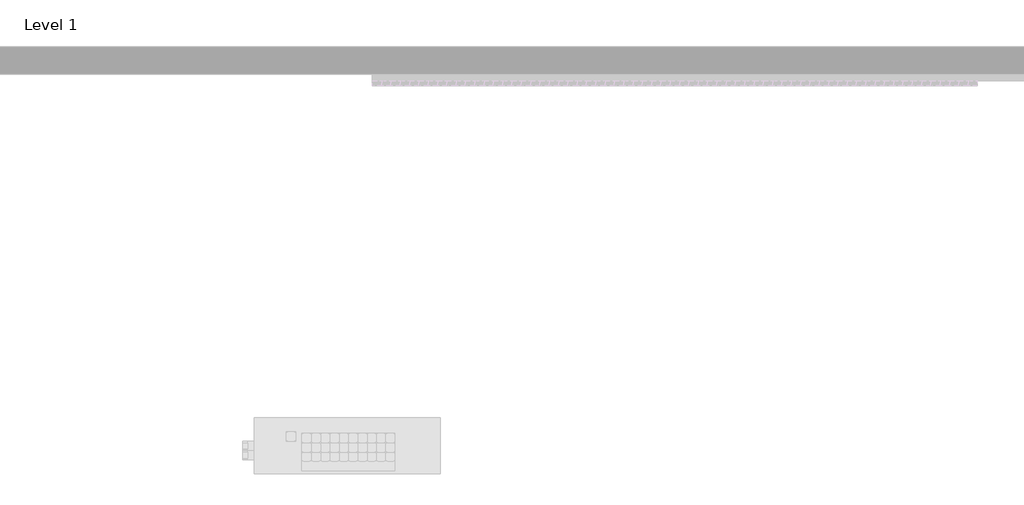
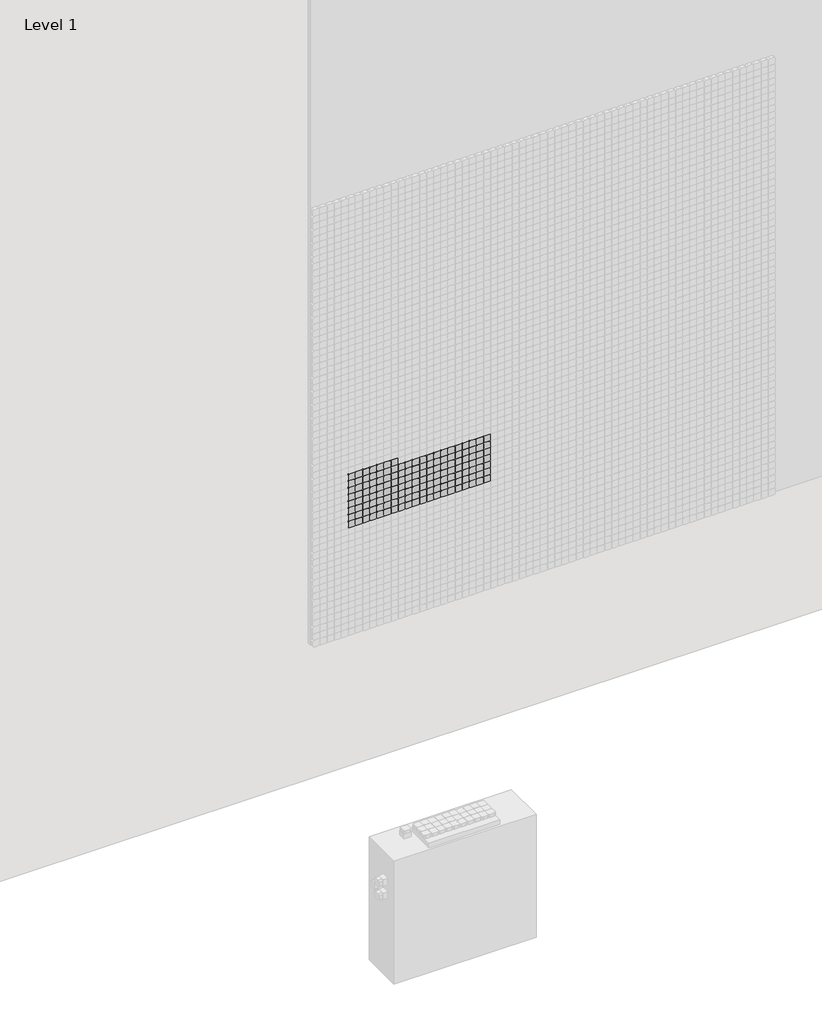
# One storey, part 18 of 71: 147 proxies.
"""IFC4 building model written with IfcOpenShell, lengths in millimetres."""

from ifc_helpers import new_model, si_unit, origin, place, context, project, spatial, transform, mapped, element, save
from components import generic_models_afde289c

model = new_model("IFC4")

# Units and contexts
model_context = context("Model", 3, world=origin())
ifc_project = project(units=[si_unit("LENGTHUNIT", "METRE", prefix="MILLI")], contexts=[model_context])

# Site, building, storey
site = spatial("IfcSite", under=ifc_project)
building = spatial("IfcBuilding", under=site)
storey = spatial("IfcBuildingStorey", under=building, Name="Level 1", Elevation=0.0)

# Proxies
placement = place(None, origin())
generic_models_shape = generic_models_afde289c(model_context)
element("IfcBuildingElementProxy", 1, Name="Pixel_M : Pixel_M", ObjectType="Pixel_M : Pixel_M", at=placement, inside=storey, context=model_context, shape_type="MappedRepresentation", body=[
    mapped(generic_models_shape, transform((5312.4280941, -75.0, 2166.3566215), x_axis=(1.0, 0.0, 0.0), y_axis=(0.0, 0.0, 1.0), z_axis=(0.0, -1.0, 0.0))),
])
element("IfcBuildingElementProxy", 2, Name="Pixel_M : Pixel_M", ObjectType="Pixel_M : Pixel_M", at=placement, inside=storey, context=model_context, shape_type="MappedRepresentation", body=[
    mapped(generic_models_shape, transform((5262.4280941, -75.0, 2166.3566215), x_axis=(1.0, 0.0, 0.0), y_axis=(0.0, 0.0, 1.0), z_axis=(0.0, -1.0, 0.0))),
])
element("IfcBuildingElementProxy", 3, Name="Pixel_M : Pixel_M", ObjectType="Pixel_M : Pixel_M", at=placement, inside=storey, context=model_context, shape_type="MappedRepresentation", body=[
    mapped(generic_models_shape, transform((5212.4280941, -75.0, 2166.3566215), x_axis=(1.0, 0.0, 0.0), y_axis=(0.0, 0.0, 1.0), z_axis=(0.0, -1.0, 0.0))),
])
element("IfcBuildingElementProxy", 4, Name="Pixel_M : Pixel_M", ObjectType="Pixel_M : Pixel_M", at=placement, inside=storey, context=model_context, shape_type="MappedRepresentation", body=[
    mapped(generic_models_shape, transform((5162.4280941, -75.0, 2166.3566215), x_axis=(1.0, 0.0, 0.0), y_axis=(0.0, 0.0, 1.0), z_axis=(0.0, -1.0, 0.0))),
])
element("IfcBuildingElementProxy", 5, Name="Pixel_M : Pixel_M", ObjectType="Pixel_M : Pixel_M", at=placement, inside=storey, context=model_context, shape_type="MappedRepresentation", body=[
    mapped(generic_models_shape, transform((5112.4280941, -75.0, 2166.3566215), x_axis=(1.0, 0.0, 0.0), y_axis=(0.0, 0.0, 1.0), z_axis=(0.0, -1.0, 0.0))),
])
element("IfcBuildingElementProxy", 6, Name="Pixel_M : Pixel_M", ObjectType="Pixel_M : Pixel_M", at=placement, inside=storey, context=model_context, shape_type="MappedRepresentation", body=[
    mapped(generic_models_shape, transform((5062.4280941, -75.0, 2166.3566215), x_axis=(1.0, 0.0, 0.0), y_axis=(0.0, 0.0, 1.0), z_axis=(0.0, -1.0, 0.0))),
])
element("IfcBuildingElementProxy", 7, Name="Pixel_M : Pixel_M", ObjectType="Pixel_M : Pixel_M", at=placement, inside=storey, context=model_context, shape_type="MappedRepresentation", body=[
    mapped(generic_models_shape, transform((5012.4280941, -75.0, 2166.3566215), x_axis=(1.0, 0.0, 0.0), y_axis=(0.0, 0.0, 1.0), z_axis=(0.0, -1.0, 0.0))),
])
element("IfcBuildingElementProxy", 8, Name="Pixel_M : Pixel_M", ObjectType="Pixel_M : Pixel_M", at=placement, inside=storey, context=model_context, shape_type="MappedRepresentation", body=[
    mapped(generic_models_shape, transform((5962.4280941, -75.0, 2116.3566215), x_axis=(1.0, 0.0, 0.0), y_axis=(0.0, 0.0, 1.0), z_axis=(0.0, -1.0, 0.0))),
])
element("IfcBuildingElementProxy", 9, Name="Pixel_M : Pixel_M", ObjectType="Pixel_M : Pixel_M", at=placement, inside=storey, context=model_context, shape_type="MappedRepresentation", body=[
    mapped(generic_models_shape, transform((5912.4280941, -75.0, 2116.3566215), x_axis=(1.0, 0.0, 0.0), y_axis=(0.0, 0.0, 1.0), z_axis=(0.0, -1.0, 0.0))),
])
element("IfcBuildingElementProxy", 10, Name="Pixel_M : Pixel_M", ObjectType="Pixel_M : Pixel_M", at=placement, inside=storey, context=model_context, shape_type="MappedRepresentation", body=[
    mapped(generic_models_shape, transform((5862.4280941, -75.0, 2116.3566215), x_axis=(1.0, 0.0, 0.0), y_axis=(0.0, 0.0, 1.0), z_axis=(0.0, -1.0, 0.0))),
])
element("IfcBuildingElementProxy", 11, Name="Pixel_M : Pixel_M", ObjectType="Pixel_M : Pixel_M", at=placement, inside=storey, context=model_context, shape_type="MappedRepresentation", body=[
    mapped(generic_models_shape, transform((5812.4280941, -75.0, 2116.3566215), x_axis=(1.0, 0.0, 0.0), y_axis=(0.0, 0.0, 1.0), z_axis=(0.0, -1.0, 0.0))),
])
element("IfcBuildingElementProxy", 12, Name="Pixel_M : Pixel_M", ObjectType="Pixel_M : Pixel_M", at=placement, inside=storey, context=model_context, shape_type="MappedRepresentation", body=[
    mapped(generic_models_shape, transform((5762.4280941, -75.0, 2116.3566215), x_axis=(1.0, 0.0, 0.0), y_axis=(0.0, 0.0, 1.0), z_axis=(0.0, -1.0, 0.0))),
])
element("IfcBuildingElementProxy", 13, Name="Pixel_M : Pixel_M", ObjectType="Pixel_M : Pixel_M", at=placement, inside=storey, context=model_context, shape_type="MappedRepresentation", body=[
    mapped(generic_models_shape, transform((5712.4280941, -75.0, 2116.3566215), x_axis=(1.0, 0.0, 0.0), y_axis=(0.0, 0.0, 1.0), z_axis=(0.0, -1.0, 0.0))),
])
element("IfcBuildingElementProxy", 14, Name="Pixel_M : Pixel_M", ObjectType="Pixel_M : Pixel_M", at=placement, inside=storey, context=model_context, shape_type="MappedRepresentation", body=[
    mapped(generic_models_shape, transform((5662.4280941, -75.0, 2116.3566215), x_axis=(1.0, 0.0, 0.0), y_axis=(0.0, 0.0, 1.0), z_axis=(0.0, -1.0, 0.0))),
])
element("IfcBuildingElementProxy", 15, Name="Pixel_M : Pixel_M", ObjectType="Pixel_M : Pixel_M", at=placement, inside=storey, context=model_context, shape_type="MappedRepresentation", body=[
    mapped(generic_models_shape, transform((5612.4280941, -75.0, 2116.3566215), x_axis=(1.0, 0.0, 0.0), y_axis=(0.0, 0.0, 1.0), z_axis=(0.0, -1.0, 0.0))),
])
element("IfcBuildingElementProxy", 16, Name="Pixel_M : Pixel_M", ObjectType="Pixel_M : Pixel_M", at=placement, inside=storey, context=model_context, shape_type="MappedRepresentation", body=[
    mapped(generic_models_shape, transform((5562.4280941, -75.0, 2116.3566215), x_axis=(1.0, 0.0, 0.0), y_axis=(0.0, 0.0, 1.0), z_axis=(0.0, -1.0, 0.0))),
])
element("IfcBuildingElementProxy", 17, Name="Pixel_M : Pixel_M", ObjectType="Pixel_M : Pixel_M", at=placement, inside=storey, context=model_context, shape_type="MappedRepresentation", body=[
    mapped(generic_models_shape, transform((5512.4280941, -75.0, 2116.3566215), x_axis=(1.0, 0.0, 0.0), y_axis=(0.0, 0.0, 1.0), z_axis=(0.0, -1.0, 0.0))),
])
element("IfcBuildingElementProxy", 18, Name="Pixel_M : Pixel_M", ObjectType="Pixel_M : Pixel_M", at=placement, inside=storey, context=model_context, shape_type="MappedRepresentation", body=[
    mapped(generic_models_shape, transform((5462.4280941, -75.0, 2116.3566215), x_axis=(1.0, 0.0, 0.0), y_axis=(0.0, 0.0, 1.0), z_axis=(0.0, -1.0, 0.0))),
])
element("IfcBuildingElementProxy", 19, Name="Pixel_M : Pixel_M", ObjectType="Pixel_M : Pixel_M", at=placement, inside=storey, context=model_context, shape_type="MappedRepresentation", body=[
    mapped(generic_models_shape, transform((5412.4280941, -75.0, 2116.3566215), x_axis=(1.0, 0.0, 0.0), y_axis=(0.0, 0.0, 1.0), z_axis=(0.0, -1.0, 0.0))),
])
element("IfcBuildingElementProxy", 20, Name="Pixel_M : Pixel_M", ObjectType="Pixel_M : Pixel_M", at=placement, inside=storey, context=model_context, shape_type="MappedRepresentation", body=[
    mapped(generic_models_shape, transform((5362.4280941, -75.0, 2116.3566215), x_axis=(1.0, 0.0, 0.0), y_axis=(0.0, 0.0, 1.0), z_axis=(0.0, -1.0, 0.0))),
])
element("IfcBuildingElementProxy", 21, Name="Pixel_M : Pixel_M", ObjectType="Pixel_M : Pixel_M", at=placement, inside=storey, context=model_context, shape_type="MappedRepresentation", body=[
    mapped(generic_models_shape, transform((5312.4280941, -75.0, 2116.3566215), x_axis=(1.0, 0.0, 0.0), y_axis=(0.0, 0.0, 1.0), z_axis=(0.0, -1.0, 0.0))),
])
element("IfcBuildingElementProxy", 22, Name="Pixel_M : Pixel_M", ObjectType="Pixel_M : Pixel_M", at=placement, inside=storey, context=model_context, shape_type="MappedRepresentation", body=[
    mapped(generic_models_shape, transform((5262.4280941, -75.0, 2116.3566215), x_axis=(1.0, 0.0, 0.0), y_axis=(0.0, 0.0, 1.0), z_axis=(0.0, -1.0, 0.0))),
])
element("IfcBuildingElementProxy", 23, Name="Pixel_M : Pixel_M", ObjectType="Pixel_M : Pixel_M", at=placement, inside=storey, context=model_context, shape_type="MappedRepresentation", body=[
    mapped(generic_models_shape, transform((5212.4280941, -75.0, 2116.3566215), x_axis=(1.0, 0.0, 0.0), y_axis=(0.0, 0.0, 1.0), z_axis=(0.0, -1.0, 0.0))),
])
element("IfcBuildingElementProxy", 24, Name="Pixel_M : Pixel_M", ObjectType="Pixel_M : Pixel_M", at=placement, inside=storey, context=model_context, shape_type="MappedRepresentation", body=[
    mapped(generic_models_shape, transform((5162.4280941, -75.0, 2116.3566215), x_axis=(1.0, 0.0, 0.0), y_axis=(0.0, 0.0, 1.0), z_axis=(0.0, -1.0, 0.0))),
])
element("IfcBuildingElementProxy", 25, Name="Pixel_M : Pixel_M", ObjectType="Pixel_M : Pixel_M", at=placement, inside=storey, context=model_context, shape_type="MappedRepresentation", body=[
    mapped(generic_models_shape, transform((5112.4280941, -75.0, 2116.3566215), x_axis=(1.0, 0.0, 0.0), y_axis=(0.0, 0.0, 1.0), z_axis=(0.0, -1.0, 0.0))),
])
element("IfcBuildingElementProxy", 26, Name="Pixel_M : Pixel_M", ObjectType="Pixel_M : Pixel_M", at=placement, inside=storey, context=model_context, shape_type="MappedRepresentation", body=[
    mapped(generic_models_shape, transform((5062.4280941, -75.0, 2116.3566215), x_axis=(1.0, 0.0, 0.0), y_axis=(0.0, 0.0, 1.0), z_axis=(0.0, -1.0, 0.0))),
])
element("IfcBuildingElementProxy", 27, Name="Pixel_M : Pixel_M", ObjectType="Pixel_M : Pixel_M", at=placement, inside=storey, context=model_context, shape_type="MappedRepresentation", body=[
    mapped(generic_models_shape, transform((5012.4280941, -75.0, 2116.3566215), x_axis=(1.0, 0.0, 0.0), y_axis=(0.0, 0.0, 1.0), z_axis=(0.0, -1.0, 0.0))),
])
element("IfcBuildingElementProxy", 28, Name="Pixel_M : Pixel_M", ObjectType="Pixel_M : Pixel_M", at=placement, inside=storey, context=model_context, shape_type="MappedRepresentation", body=[
    mapped(generic_models_shape, transform((5962.4280941, -75.0, 2066.3566215), x_axis=(1.0, 0.0, 0.0), y_axis=(0.0, 0.0, 1.0), z_axis=(0.0, -1.0, 0.0))),
])
element("IfcBuildingElementProxy", 29, Name="Pixel_M : Pixel_M", ObjectType="Pixel_M : Pixel_M", at=placement, inside=storey, context=model_context, shape_type="MappedRepresentation", body=[
    mapped(generic_models_shape, transform((5912.4280941, -75.0, 2066.3566215), x_axis=(1.0, 0.0, 0.0), y_axis=(0.0, 0.0, 1.0), z_axis=(0.0, -1.0, 0.0))),
])
element("IfcBuildingElementProxy", 30, Name="Pixel_M : Pixel_M", ObjectType="Pixel_M : Pixel_M", at=placement, inside=storey, context=model_context, shape_type="MappedRepresentation", body=[
    mapped(generic_models_shape, transform((5862.4280941, -75.0, 2066.3566215), x_axis=(1.0, 0.0, 0.0), y_axis=(0.0, 0.0, 1.0), z_axis=(0.0, -1.0, 0.0))),
])
element("IfcBuildingElementProxy", 31, Name="Pixel_M : Pixel_M", ObjectType="Pixel_M : Pixel_M", at=placement, inside=storey, context=model_context, shape_type="MappedRepresentation", body=[
    mapped(generic_models_shape, transform((5812.4280941, -75.0, 2066.3566215), x_axis=(1.0, 0.0, 0.0), y_axis=(0.0, 0.0, 1.0), z_axis=(0.0, -1.0, 0.0))),
])
element("IfcBuildingElementProxy", 32, Name="Pixel_M : Pixel_M", ObjectType="Pixel_M : Pixel_M", at=placement, inside=storey, context=model_context, shape_type="MappedRepresentation", body=[
    mapped(generic_models_shape, transform((5762.4280941, -75.0, 2066.3566215), x_axis=(1.0, 0.0, 0.0), y_axis=(0.0, 0.0, 1.0), z_axis=(0.0, -1.0, 0.0))),
])
element("IfcBuildingElementProxy", 33, Name="Pixel_M : Pixel_M", ObjectType="Pixel_M : Pixel_M", at=placement, inside=storey, context=model_context, shape_type="MappedRepresentation", body=[
    mapped(generic_models_shape, transform((5712.4280941, -75.0, 2066.3566215), x_axis=(1.0, 0.0, 0.0), y_axis=(0.0, 0.0, 1.0), z_axis=(0.0, -1.0, 0.0))),
])
element("IfcBuildingElementProxy", 34, Name="Pixel_M : Pixel_M", ObjectType="Pixel_M : Pixel_M", at=placement, inside=storey, context=model_context, shape_type="MappedRepresentation", body=[
    mapped(generic_models_shape, transform((5662.4280941, -75.0, 2066.3566215), x_axis=(1.0, 0.0, 0.0), y_axis=(0.0, 0.0, 1.0), z_axis=(0.0, -1.0, 0.0))),
])
element("IfcBuildingElementProxy", 35, Name="Pixel_M : Pixel_M", ObjectType="Pixel_M : Pixel_M", at=placement, inside=storey, context=model_context, shape_type="MappedRepresentation", body=[
    mapped(generic_models_shape, transform((5612.4280941, -75.0, 2066.3566215), x_axis=(1.0, 0.0, 0.0), y_axis=(0.0, 0.0, 1.0), z_axis=(0.0, -1.0, 0.0))),
])
element("IfcBuildingElementProxy", 36, Name="Pixel_M : Pixel_M", ObjectType="Pixel_M : Pixel_M", at=placement, inside=storey, context=model_context, shape_type="MappedRepresentation", body=[
    mapped(generic_models_shape, transform((5562.4280941, -75.0, 2066.3566215), x_axis=(1.0, 0.0, 0.0), y_axis=(0.0, 0.0, 1.0), z_axis=(0.0, -1.0, 0.0))),
])
element("IfcBuildingElementProxy", 37, Name="Pixel_M : Pixel_M", ObjectType="Pixel_M : Pixel_M", at=placement, inside=storey, context=model_context, shape_type="MappedRepresentation", body=[
    mapped(generic_models_shape, transform((5512.4280941, -75.0, 2066.3566215), x_axis=(1.0, 0.0, 0.0), y_axis=(0.0, 0.0, 1.0), z_axis=(0.0, -1.0, 0.0))),
])
element("IfcBuildingElementProxy", 38, Name="Pixel_M : Pixel_M", ObjectType="Pixel_M : Pixel_M", at=placement, inside=storey, context=model_context, shape_type="MappedRepresentation", body=[
    mapped(generic_models_shape, transform((5462.4280941, -75.0, 2066.3566215), x_axis=(1.0, 0.0, 0.0), y_axis=(0.0, 0.0, 1.0), z_axis=(0.0, -1.0, 0.0))),
])
element("IfcBuildingElementProxy", 39, Name="Pixel_M : Pixel_M", ObjectType="Pixel_M : Pixel_M", at=placement, inside=storey, context=model_context, shape_type="MappedRepresentation", body=[
    mapped(generic_models_shape, transform((5412.4280941, -75.0, 2066.3566215), x_axis=(1.0, 0.0, 0.0), y_axis=(0.0, 0.0, 1.0), z_axis=(0.0, -1.0, 0.0))),
])
element("IfcBuildingElementProxy", 40, Name="Pixel_M : Pixel_M", ObjectType="Pixel_M : Pixel_M", at=placement, inside=storey, context=model_context, shape_type="MappedRepresentation", body=[
    mapped(generic_models_shape, transform((5362.4280941, -75.0, 2066.3566215), x_axis=(1.0, 0.0, 0.0), y_axis=(0.0, 0.0, 1.0), z_axis=(0.0, -1.0, 0.0))),
])
element("IfcBuildingElementProxy", 41, Name="Pixel_M : Pixel_M", ObjectType="Pixel_M : Pixel_M", at=placement, inside=storey, context=model_context, shape_type="MappedRepresentation", body=[
    mapped(generic_models_shape, transform((5312.4280941, -75.0, 2066.3566215), x_axis=(1.0, 0.0, 0.0), y_axis=(0.0, 0.0, 1.0), z_axis=(0.0, -1.0, 0.0))),
])
element("IfcBuildingElementProxy", 42, Name="Pixel_M : Pixel_M", ObjectType="Pixel_M : Pixel_M", at=placement, inside=storey, context=model_context, shape_type="MappedRepresentation", body=[
    mapped(generic_models_shape, transform((5262.4280941, -75.0, 2066.3566215), x_axis=(1.0, 0.0, 0.0), y_axis=(0.0, 0.0, 1.0), z_axis=(0.0, -1.0, 0.0))),
])
element("IfcBuildingElementProxy", 43, Name="Pixel_M : Pixel_M", ObjectType="Pixel_M : Pixel_M", at=placement, inside=storey, context=model_context, shape_type="MappedRepresentation", body=[
    mapped(generic_models_shape, transform((5212.4280941, -75.0, 2066.3566215), x_axis=(1.0, 0.0, 0.0), y_axis=(0.0, 0.0, 1.0), z_axis=(0.0, -1.0, 0.0))),
])
element("IfcBuildingElementProxy", 44, Name="Pixel_M : Pixel_M", ObjectType="Pixel_M : Pixel_M", at=placement, inside=storey, context=model_context, shape_type="MappedRepresentation", body=[
    mapped(generic_models_shape, transform((5162.4280941, -75.0, 2066.3566215), x_axis=(1.0, 0.0, 0.0), y_axis=(0.0, 0.0, 1.0), z_axis=(0.0, -1.0, 0.0))),
])
element("IfcBuildingElementProxy", 45, Name="Pixel_M : Pixel_M", ObjectType="Pixel_M : Pixel_M", at=placement, inside=storey, context=model_context, shape_type="MappedRepresentation", body=[
    mapped(generic_models_shape, transform((5112.4280941, -75.0, 2066.3566215), x_axis=(1.0, 0.0, 0.0), y_axis=(0.0, 0.0, 1.0), z_axis=(0.0, -1.0, 0.0))),
])
element("IfcBuildingElementProxy", 46, Name="Pixel_M : Pixel_M", ObjectType="Pixel_M : Pixel_M", at=placement, inside=storey, context=model_context, shape_type="MappedRepresentation", body=[
    mapped(generic_models_shape, transform((5062.4280941, -75.0, 2066.3566215), x_axis=(1.0, 0.0, 0.0), y_axis=(0.0, 0.0, 1.0), z_axis=(0.0, -1.0, 0.0))),
])
element("IfcBuildingElementProxy", 47, Name="Pixel_M : Pixel_M", ObjectType="Pixel_M : Pixel_M", at=placement, inside=storey, context=model_context, shape_type="MappedRepresentation", body=[
    mapped(generic_models_shape, transform((5012.4280941, -75.0, 2066.3566215), x_axis=(1.0, 0.0, 0.0), y_axis=(0.0, 0.0, 1.0), z_axis=(0.0, -1.0, 0.0))),
])
element("IfcBuildingElementProxy", 48, Name="Pixel_M : Pixel_M", ObjectType="Pixel_M : Pixel_M", at=placement, inside=storey, context=model_context, shape_type="MappedRepresentation", body=[
    mapped(generic_models_shape, transform((5962.4280941, -75.0, 2016.3566215), x_axis=(1.0, 0.0, 0.0), y_axis=(0.0, 0.0, 1.0), z_axis=(0.0, -1.0, 0.0))),
])
element("IfcBuildingElementProxy", 49, Name="Pixel_M : Pixel_M", ObjectType="Pixel_M : Pixel_M", at=placement, inside=storey, context=model_context, shape_type="MappedRepresentation", body=[
    mapped(generic_models_shape, transform((5912.4280941, -75.0, 2016.3566215), x_axis=(1.0, 0.0, 0.0), y_axis=(0.0, 0.0, 1.0), z_axis=(0.0, -1.0, 0.0))),
])
element("IfcBuildingElementProxy", 50, Name="Pixel_M : Pixel_M", ObjectType="Pixel_M : Pixel_M", at=placement, inside=storey, context=model_context, shape_type="MappedRepresentation", body=[
    mapped(generic_models_shape, transform((5862.4280941, -75.0, 2016.3566215), x_axis=(1.0, 0.0, 0.0), y_axis=(0.0, 0.0, 1.0), z_axis=(0.0, -1.0, 0.0))),
])
element("IfcBuildingElementProxy", 51, Name="Pixel_M : Pixel_M", ObjectType="Pixel_M : Pixel_M", at=placement, inside=storey, context=model_context, shape_type="MappedRepresentation", body=[
    mapped(generic_models_shape, transform((5812.4280941, -75.0, 2016.3566215), x_axis=(1.0, 0.0, 0.0), y_axis=(0.0, 0.0, 1.0), z_axis=(0.0, -1.0, 0.0))),
])
element("IfcBuildingElementProxy", 52, Name="Pixel_M : Pixel_M", ObjectType="Pixel_M : Pixel_M", at=placement, inside=storey, context=model_context, shape_type="MappedRepresentation", body=[
    mapped(generic_models_shape, transform((5762.4280941, -75.0, 2016.3566215), x_axis=(1.0, 0.0, 0.0), y_axis=(0.0, 0.0, 1.0), z_axis=(0.0, -1.0, 0.0))),
])
element("IfcBuildingElementProxy", 53, Name="Pixel_M : Pixel_M", ObjectType="Pixel_M : Pixel_M", at=placement, inside=storey, context=model_context, shape_type="MappedRepresentation", body=[
    mapped(generic_models_shape, transform((5712.4280941, -75.0, 2016.3566215), x_axis=(1.0, 0.0, 0.0), y_axis=(0.0, 0.0, 1.0), z_axis=(0.0, -1.0, 0.0))),
])
element("IfcBuildingElementProxy", 54, Name="Pixel_M : Pixel_M", ObjectType="Pixel_M : Pixel_M", at=placement, inside=storey, context=model_context, shape_type="MappedRepresentation", body=[
    mapped(generic_models_shape, transform((5662.4280941, -75.0, 2016.3566215), x_axis=(1.0, 0.0, 0.0), y_axis=(0.0, 0.0, 1.0), z_axis=(0.0, -1.0, 0.0))),
])
element("IfcBuildingElementProxy", 55, Name="Pixel_M : Pixel_M", ObjectType="Pixel_M : Pixel_M", at=placement, inside=storey, context=model_context, shape_type="MappedRepresentation", body=[
    mapped(generic_models_shape, transform((5612.4280941, -75.0, 2016.3566215), x_axis=(1.0, 0.0, 0.0), y_axis=(0.0, 0.0, 1.0), z_axis=(0.0, -1.0, 0.0))),
])
element("IfcBuildingElementProxy", 56, Name="Pixel_M : Pixel_M", ObjectType="Pixel_M : Pixel_M", at=placement, inside=storey, context=model_context, shape_type="MappedRepresentation", body=[
    mapped(generic_models_shape, transform((5562.4280941, -75.0, 2016.3566215), x_axis=(1.0, 0.0, 0.0), y_axis=(0.0, 0.0, 1.0), z_axis=(0.0, -1.0, 0.0))),
])
element("IfcBuildingElementProxy", 57, Name="Pixel_M : Pixel_M", ObjectType="Pixel_M : Pixel_M", at=placement, inside=storey, context=model_context, shape_type="MappedRepresentation", body=[
    mapped(generic_models_shape, transform((5512.4280941, -75.0, 2016.3566215), x_axis=(1.0, 0.0, 0.0), y_axis=(0.0, 0.0, 1.0), z_axis=(0.0, -1.0, 0.0))),
])
element("IfcBuildingElementProxy", 58, Name="Pixel_M : Pixel_M", ObjectType="Pixel_M : Pixel_M", at=placement, inside=storey, context=model_context, shape_type="MappedRepresentation", body=[
    mapped(generic_models_shape, transform((5462.4280941, -75.0, 2016.3566215), x_axis=(1.0, 0.0, 0.0), y_axis=(0.0, 0.0, 1.0), z_axis=(0.0, -1.0, 0.0))),
])
element("IfcBuildingElementProxy", 59, Name="Pixel_M : Pixel_M", ObjectType="Pixel_M : Pixel_M", at=placement, inside=storey, context=model_context, shape_type="MappedRepresentation", body=[
    mapped(generic_models_shape, transform((5412.4280941, -75.0, 2016.3566215), x_axis=(1.0, 0.0, 0.0), y_axis=(0.0, 0.0, 1.0), z_axis=(0.0, -1.0, 0.0))),
])
element("IfcBuildingElementProxy", 60, Name="Pixel_M : Pixel_M", ObjectType="Pixel_M : Pixel_M", at=placement, inside=storey, context=model_context, shape_type="MappedRepresentation", body=[
    mapped(generic_models_shape, transform((5362.4280941, -75.0, 2016.3566215), x_axis=(1.0, 0.0, 0.0), y_axis=(0.0, 0.0, 1.0), z_axis=(0.0, -1.0, 0.0))),
])
element("IfcBuildingElementProxy", 61, Name="Pixel_M : Pixel_M", ObjectType="Pixel_M : Pixel_M", at=placement, inside=storey, context=model_context, shape_type="MappedRepresentation", body=[
    mapped(generic_models_shape, transform((5312.4280941, -75.0, 2016.3566215), x_axis=(1.0, 0.0, 0.0), y_axis=(0.0, 0.0, 1.0), z_axis=(0.0, -1.0, 0.0))),
])
element("IfcBuildingElementProxy", 62, Name="Pixel_M : Pixel_M", ObjectType="Pixel_M : Pixel_M", at=placement, inside=storey, context=model_context, shape_type="MappedRepresentation", body=[
    mapped(generic_models_shape, transform((5262.4280941, -75.0, 2016.3566215), x_axis=(1.0, 0.0, 0.0), y_axis=(0.0, 0.0, 1.0), z_axis=(0.0, -1.0, 0.0))),
])
element("IfcBuildingElementProxy", 63, Name="Pixel_M : Pixel_M", ObjectType="Pixel_M : Pixel_M", at=placement, inside=storey, context=model_context, shape_type="MappedRepresentation", body=[
    mapped(generic_models_shape, transform((5212.4280941, -75.0, 2016.3566215), x_axis=(1.0, 0.0, 0.0), y_axis=(0.0, 0.0, 1.0), z_axis=(0.0, -1.0, 0.0))),
])
element("IfcBuildingElementProxy", 64, Name="Pixel_M : Pixel_M", ObjectType="Pixel_M : Pixel_M", at=placement, inside=storey, context=model_context, shape_type="MappedRepresentation", body=[
    mapped(generic_models_shape, transform((5162.4280941, -75.0, 2016.3566215), x_axis=(1.0, 0.0, 0.0), y_axis=(0.0, 0.0, 1.0), z_axis=(0.0, -1.0, 0.0))),
])
element("IfcBuildingElementProxy", 65, Name="Pixel_M : Pixel_M", ObjectType="Pixel_M : Pixel_M", at=placement, inside=storey, context=model_context, shape_type="MappedRepresentation", body=[
    mapped(generic_models_shape, transform((5112.4280941, -75.0, 2016.3566215), x_axis=(1.0, 0.0, 0.0), y_axis=(0.0, 0.0, 1.0), z_axis=(0.0, -1.0, 0.0))),
])
element("IfcBuildingElementProxy", 66, Name="Pixel_M : Pixel_M", ObjectType="Pixel_M : Pixel_M", at=placement, inside=storey, context=model_context, shape_type="MappedRepresentation", body=[
    mapped(generic_models_shape, transform((5062.4280941, -75.0, 2016.3566215), x_axis=(1.0, 0.0, 0.0), y_axis=(0.0, 0.0, 1.0), z_axis=(0.0, -1.0, 0.0))),
])
element("IfcBuildingElementProxy", 67, Name="Pixel_M : Pixel_M", ObjectType="Pixel_M : Pixel_M", at=placement, inside=storey, context=model_context, shape_type="MappedRepresentation", body=[
    mapped(generic_models_shape, transform((5012.4280941, -75.0, 2016.3566215), x_axis=(1.0, 0.0, 0.0), y_axis=(0.0, 0.0, 1.0), z_axis=(0.0, -1.0, 0.0))),
])
element("IfcBuildingElementProxy", 68, Name="Pixel_M : Pixel_M", ObjectType="Pixel_M : Pixel_M", at=placement, inside=storey, context=model_context, shape_type="MappedRepresentation", body=[
    mapped(generic_models_shape, transform((5962.4280941, -75.0, 1966.3566215), x_axis=(1.0, 0.0, 0.0), y_axis=(0.0, 0.0, 1.0), z_axis=(0.0, -1.0, 0.0))),
])
element("IfcBuildingElementProxy", 69, Name="Pixel_M : Pixel_M", ObjectType="Pixel_M : Pixel_M", at=placement, inside=storey, context=model_context, shape_type="MappedRepresentation", body=[
    mapped(generic_models_shape, transform((5912.4280941, -75.0, 1966.3566215), x_axis=(1.0, 0.0, 0.0), y_axis=(0.0, 0.0, 1.0), z_axis=(0.0, -1.0, 0.0))),
])
element("IfcBuildingElementProxy", 70, Name="Pixel_M : Pixel_M", ObjectType="Pixel_M : Pixel_M", at=placement, inside=storey, context=model_context, shape_type="MappedRepresentation", body=[
    mapped(generic_models_shape, transform((5862.4280941, -75.0, 1966.3566215), x_axis=(1.0, 0.0, 0.0), y_axis=(0.0, 0.0, 1.0), z_axis=(0.0, -1.0, 0.0))),
])
element("IfcBuildingElementProxy", 71, Name="Pixel_M : Pixel_M", ObjectType="Pixel_M : Pixel_M", at=placement, inside=storey, context=model_context, shape_type="MappedRepresentation", body=[
    mapped(generic_models_shape, transform((5812.4280941, -75.0, 1966.3566215), x_axis=(1.0, 0.0, 0.0), y_axis=(0.0, 0.0, 1.0), z_axis=(0.0, -1.0, 0.0))),
])
element("IfcBuildingElementProxy", 72, Name="Pixel_M : Pixel_M", ObjectType="Pixel_M : Pixel_M", at=placement, inside=storey, context=model_context, shape_type="MappedRepresentation", body=[
    mapped(generic_models_shape, transform((5762.4280941, -75.0, 1966.3566215), x_axis=(1.0, 0.0, 0.0), y_axis=(0.0, 0.0, 1.0), z_axis=(0.0, -1.0, 0.0))),
])
element("IfcBuildingElementProxy", 73, Name="Pixel_M : Pixel_M", ObjectType="Pixel_M : Pixel_M", at=placement, inside=storey, context=model_context, shape_type="MappedRepresentation", body=[
    mapped(generic_models_shape, transform((5712.4280941, -75.0, 1966.3566215), x_axis=(1.0, 0.0, 0.0), y_axis=(0.0, 0.0, 1.0), z_axis=(0.0, -1.0, 0.0))),
])
element("IfcBuildingElementProxy", 74, Name="Pixel_M : Pixel_M", ObjectType="Pixel_M : Pixel_M", at=placement, inside=storey, context=model_context, shape_type="MappedRepresentation", body=[
    mapped(generic_models_shape, transform((5662.4280941, -75.0, 1966.3566215), x_axis=(1.0, 0.0, 0.0), y_axis=(0.0, 0.0, 1.0), z_axis=(0.0, -1.0, 0.0))),
])
element("IfcBuildingElementProxy", 75, Name="Pixel_M : Pixel_M", ObjectType="Pixel_M : Pixel_M", at=placement, inside=storey, context=model_context, shape_type="MappedRepresentation", body=[
    mapped(generic_models_shape, transform((5612.4280941, -75.0, 1966.3566215), x_axis=(1.0, 0.0, 0.0), y_axis=(0.0, 0.0, 1.0), z_axis=(0.0, -1.0, 0.0))),
])
element("IfcBuildingElementProxy", 76, Name="Pixel_M : Pixel_M", ObjectType="Pixel_M : Pixel_M", at=placement, inside=storey, context=model_context, shape_type="MappedRepresentation", body=[
    mapped(generic_models_shape, transform((5562.4280941, -75.0, 1966.3566215), x_axis=(1.0, 0.0, 0.0), y_axis=(0.0, 0.0, 1.0), z_axis=(0.0, -1.0, 0.0))),
])
element("IfcBuildingElementProxy", 77, Name="Pixel_M : Pixel_M", ObjectType="Pixel_M : Pixel_M", at=placement, inside=storey, context=model_context, shape_type="MappedRepresentation", body=[
    mapped(generic_models_shape, transform((5512.4280941, -75.0, 1966.3566215), x_axis=(1.0, 0.0, 0.0), y_axis=(0.0, 0.0, 1.0), z_axis=(0.0, -1.0, 0.0))),
])
element("IfcBuildingElementProxy", 78, Name="Pixel_M : Pixel_M", ObjectType="Pixel_M : Pixel_M", at=placement, inside=storey, context=model_context, shape_type="MappedRepresentation", body=[
    mapped(generic_models_shape, transform((5462.4280941, -75.0, 1966.3566215), x_axis=(1.0, 0.0, 0.0), y_axis=(0.0, 0.0, 1.0), z_axis=(0.0, -1.0, 0.0))),
])
element("IfcBuildingElementProxy", 79, Name="Pixel_M : Pixel_M", ObjectType="Pixel_M : Pixel_M", at=placement, inside=storey, context=model_context, shape_type="MappedRepresentation", body=[
    mapped(generic_models_shape, transform((5412.4280941, -75.0, 1966.3566215), x_axis=(1.0, 0.0, 0.0), y_axis=(0.0, 0.0, 1.0), z_axis=(0.0, -1.0, 0.0))),
])
element("IfcBuildingElementProxy", 80, Name="Pixel_M : Pixel_M", ObjectType="Pixel_M : Pixel_M", at=placement, inside=storey, context=model_context, shape_type="MappedRepresentation", body=[
    mapped(generic_models_shape, transform((5362.4280941, -75.0, 1966.3566215), x_axis=(1.0, 0.0, 0.0), y_axis=(0.0, 0.0, 1.0), z_axis=(0.0, -1.0, 0.0))),
])
element("IfcBuildingElementProxy", 81, Name="Pixel_M : Pixel_M", ObjectType="Pixel_M : Pixel_M", at=placement, inside=storey, context=model_context, shape_type="MappedRepresentation", body=[
    mapped(generic_models_shape, transform((5312.4280941, -75.0, 1966.3566215), x_axis=(1.0, 0.0, 0.0), y_axis=(0.0, 0.0, 1.0), z_axis=(0.0, -1.0, 0.0))),
])
element("IfcBuildingElementProxy", 82, Name="Pixel_M : Pixel_M", ObjectType="Pixel_M : Pixel_M", at=placement, inside=storey, context=model_context, shape_type="MappedRepresentation", body=[
    mapped(generic_models_shape, transform((5262.4280941, -75.0, 1966.3566215), x_axis=(1.0, 0.0, 0.0), y_axis=(0.0, 0.0, 1.0), z_axis=(0.0, -1.0, 0.0))),
])
element("IfcBuildingElementProxy", 83, Name="Pixel_M : Pixel_M", ObjectType="Pixel_M : Pixel_M", at=placement, inside=storey, context=model_context, shape_type="MappedRepresentation", body=[
    mapped(generic_models_shape, transform((5212.4280941, -75.0, 1966.3566215), x_axis=(1.0, 0.0, 0.0), y_axis=(0.0, 0.0, 1.0), z_axis=(0.0, -1.0, 0.0))),
])
element("IfcBuildingElementProxy", 84, Name="Pixel_M : Pixel_M", ObjectType="Pixel_M : Pixel_M", at=placement, inside=storey, context=model_context, shape_type="MappedRepresentation", body=[
    mapped(generic_models_shape, transform((5162.4280941, -75.0, 1966.3566215), x_axis=(1.0, 0.0, 0.0), y_axis=(0.0, 0.0, 1.0), z_axis=(0.0, -1.0, 0.0))),
])
element("IfcBuildingElementProxy", 85, Name="Pixel_M : Pixel_M", ObjectType="Pixel_M : Pixel_M", at=placement, inside=storey, context=model_context, shape_type="MappedRepresentation", body=[
    mapped(generic_models_shape, transform((5112.4280941, -75.0, 1966.3566215), x_axis=(1.0, 0.0, 0.0), y_axis=(0.0, 0.0, 1.0), z_axis=(0.0, -1.0, 0.0))),
])
element("IfcBuildingElementProxy", 86, Name="Pixel_M : Pixel_M", ObjectType="Pixel_M : Pixel_M", at=placement, inside=storey, context=model_context, shape_type="MappedRepresentation", body=[
    mapped(generic_models_shape, transform((5062.4280941, -75.0, 1966.3566215), x_axis=(1.0, 0.0, 0.0), y_axis=(0.0, 0.0, 1.0), z_axis=(0.0, -1.0, 0.0))),
])
element("IfcBuildingElementProxy", 87, Name="Pixel_M : Pixel_M", ObjectType="Pixel_M : Pixel_M", at=placement, inside=storey, context=model_context, shape_type="MappedRepresentation", body=[
    mapped(generic_models_shape, transform((5012.4280941, -75.0, 1966.3566215), x_axis=(1.0, 0.0, 0.0), y_axis=(0.0, 0.0, 1.0), z_axis=(0.0, -1.0, 0.0))),
])
element("IfcBuildingElementProxy", 88, Name="Pixel_M : Pixel_M", ObjectType="Pixel_M : Pixel_M", at=placement, inside=storey, context=model_context, shape_type="MappedRepresentation", body=[
    mapped(generic_models_shape, transform((5962.4280941, -75.0, 1916.3566215), x_axis=(1.0, 0.0, 0.0), y_axis=(0.0, 0.0, 1.0), z_axis=(0.0, -1.0, 0.0))),
])
element("IfcBuildingElementProxy", 89, Name="Pixel_M : Pixel_M", ObjectType="Pixel_M : Pixel_M", at=placement, inside=storey, context=model_context, shape_type="MappedRepresentation", body=[
    mapped(generic_models_shape, transform((5912.4280941, -75.0, 1916.3566215), x_axis=(1.0, 0.0, 0.0), y_axis=(0.0, 0.0, 1.0), z_axis=(0.0, -1.0, 0.0))),
])
element("IfcBuildingElementProxy", 90, Name="Pixel_M : Pixel_M", ObjectType="Pixel_M : Pixel_M", at=placement, inside=storey, context=model_context, shape_type="MappedRepresentation", body=[
    mapped(generic_models_shape, transform((5862.4280941, -75.0, 1916.3566215), x_axis=(1.0, 0.0, 0.0), y_axis=(0.0, 0.0, 1.0), z_axis=(0.0, -1.0, 0.0))),
])
element("IfcBuildingElementProxy", 91, Name="Pixel_M : Pixel_M", ObjectType="Pixel_M : Pixel_M", at=placement, inside=storey, context=model_context, shape_type="MappedRepresentation", body=[
    mapped(generic_models_shape, transform((5812.4280941, -75.0, 1916.3566215), x_axis=(1.0, 0.0, 0.0), y_axis=(0.0, 0.0, 1.0), z_axis=(0.0, -1.0, 0.0))),
])
element("IfcBuildingElementProxy", 92, Name="Pixel_M : Pixel_M", ObjectType="Pixel_M : Pixel_M", at=placement, inside=storey, context=model_context, shape_type="MappedRepresentation", body=[
    mapped(generic_models_shape, transform((5762.4280941, -75.0, 1916.3566215), x_axis=(1.0, 0.0, 0.0), y_axis=(0.0, 0.0, 1.0), z_axis=(0.0, -1.0, 0.0))),
])
element("IfcBuildingElementProxy", 93, Name="Pixel_M : Pixel_M", ObjectType="Pixel_M : Pixel_M", at=placement, inside=storey, context=model_context, shape_type="MappedRepresentation", body=[
    mapped(generic_models_shape, transform((5712.4280941, -75.0, 1916.3566215), x_axis=(1.0, 0.0, 0.0), y_axis=(0.0, 0.0, 1.0), z_axis=(0.0, -1.0, 0.0))),
])
element("IfcBuildingElementProxy", 94, Name="Pixel_M : Pixel_M", ObjectType="Pixel_M : Pixel_M", at=placement, inside=storey, context=model_context, shape_type="MappedRepresentation", body=[
    mapped(generic_models_shape, transform((5662.4280941, -75.0, 1916.3566215), x_axis=(1.0, 0.0, 0.0), y_axis=(0.0, 0.0, 1.0), z_axis=(0.0, -1.0, 0.0))),
])
element("IfcBuildingElementProxy", 95, Name="Pixel_M : Pixel_M", ObjectType="Pixel_M : Pixel_M", at=placement, inside=storey, context=model_context, shape_type="MappedRepresentation", body=[
    mapped(generic_models_shape, transform((5612.4280941, -75.0, 1916.3566215), x_axis=(1.0, 0.0, 0.0), y_axis=(0.0, 0.0, 1.0), z_axis=(0.0, -1.0, 0.0))),
])
element("IfcBuildingElementProxy", 96, Name="Pixel_M : Pixel_M", ObjectType="Pixel_M : Pixel_M", at=placement, inside=storey, context=model_context, shape_type="MappedRepresentation", body=[
    mapped(generic_models_shape, transform((5562.4280941, -75.0, 1916.3566215), x_axis=(1.0, 0.0, 0.0), y_axis=(0.0, 0.0, 1.0), z_axis=(0.0, -1.0, 0.0))),
])
element("IfcBuildingElementProxy", 97, Name="Pixel_M : Pixel_M", ObjectType="Pixel_M : Pixel_M", at=placement, inside=storey, context=model_context, shape_type="MappedRepresentation", body=[
    mapped(generic_models_shape, transform((5512.4280941, -75.0, 1916.3566215), x_axis=(1.0, 0.0, 0.0), y_axis=(0.0, 0.0, 1.0), z_axis=(0.0, -1.0, 0.0))),
])
element("IfcBuildingElementProxy", 98, Name="Pixel_M : Pixel_M", ObjectType="Pixel_M : Pixel_M", at=placement, inside=storey, context=model_context, shape_type="MappedRepresentation", body=[
    mapped(generic_models_shape, transform((5462.4280941, -75.0, 1916.3566215), x_axis=(1.0, 0.0, 0.0), y_axis=(0.0, 0.0, 1.0), z_axis=(0.0, -1.0, 0.0))),
])
element("IfcBuildingElementProxy", 99, Name="Pixel_M : Pixel_M", ObjectType="Pixel_M : Pixel_M", at=placement, inside=storey, context=model_context, shape_type="MappedRepresentation", body=[
    mapped(generic_models_shape, transform((5412.4280941, -75.0, 1916.3566215), x_axis=(1.0, 0.0, 0.0), y_axis=(0.0, 0.0, 1.0), z_axis=(0.0, -1.0, 0.0))),
])
element("IfcBuildingElementProxy", 100, Name="Pixel_M : Pixel_M", ObjectType="Pixel_M : Pixel_M", at=placement, inside=storey, context=model_context, shape_type="MappedRepresentation", body=[
    mapped(generic_models_shape, transform((5362.4280941, -75.0, 1916.3566215), x_axis=(1.0, 0.0, 0.0), y_axis=(0.0, 0.0, 1.0), z_axis=(0.0, -1.0, 0.0))),
])
element("IfcBuildingElementProxy", 101, Name="Pixel_M : Pixel_M", ObjectType="Pixel_M : Pixel_M", at=placement, inside=storey, context=model_context, shape_type="MappedRepresentation", body=[
    mapped(generic_models_shape, transform((5312.4280941, -75.0, 1916.3566215), x_axis=(1.0, 0.0, 0.0), y_axis=(0.0, 0.0, 1.0), z_axis=(0.0, -1.0, 0.0))),
])
element("IfcBuildingElementProxy", 102, Name="Pixel_M : Pixel_M", ObjectType="Pixel_M : Pixel_M", at=placement, inside=storey, context=model_context, shape_type="MappedRepresentation", body=[
    mapped(generic_models_shape, transform((5262.4280941, -75.0, 1916.3566215), x_axis=(1.0, 0.0, 0.0), y_axis=(0.0, 0.0, 1.0), z_axis=(0.0, -1.0, 0.0))),
])
element("IfcBuildingElementProxy", 103, Name="Pixel_M : Pixel_M", ObjectType="Pixel_M : Pixel_M", at=placement, inside=storey, context=model_context, shape_type="MappedRepresentation", body=[
    mapped(generic_models_shape, transform((5212.4280941, -75.0, 1916.3566215), x_axis=(1.0, 0.0, 0.0), y_axis=(0.0, 0.0, 1.0), z_axis=(0.0, -1.0, 0.0))),
])
element("IfcBuildingElementProxy", 104, Name="Pixel_M : Pixel_M", ObjectType="Pixel_M : Pixel_M", at=placement, inside=storey, context=model_context, shape_type="MappedRepresentation", body=[
    mapped(generic_models_shape, transform((5162.4280941, -75.0, 1916.3566215), x_axis=(1.0, 0.0, 0.0), y_axis=(0.0, 0.0, 1.0), z_axis=(0.0, -1.0, 0.0))),
])
element("IfcBuildingElementProxy", 105, Name="Pixel_M : Pixel_M", ObjectType="Pixel_M : Pixel_M", at=placement, inside=storey, context=model_context, shape_type="MappedRepresentation", body=[
    mapped(generic_models_shape, transform((5112.4280941, -75.0, 1916.3566215), x_axis=(1.0, 0.0, 0.0), y_axis=(0.0, 0.0, 1.0), z_axis=(0.0, -1.0, 0.0))),
])
element("IfcBuildingElementProxy", 106, Name="Pixel_M : Pixel_M", ObjectType="Pixel_M : Pixel_M", at=placement, inside=storey, context=model_context, shape_type="MappedRepresentation", body=[
    mapped(generic_models_shape, transform((5062.4280941, -75.0, 1916.3566215), x_axis=(1.0, 0.0, 0.0), y_axis=(0.0, 0.0, 1.0), z_axis=(0.0, -1.0, 0.0))),
])
element("IfcBuildingElementProxy", 107, Name="Pixel_M : Pixel_M", ObjectType="Pixel_M : Pixel_M", at=placement, inside=storey, context=model_context, shape_type="MappedRepresentation", body=[
    mapped(generic_models_shape, transform((5012.4280941, -75.0, 1916.3566215), x_axis=(1.0, 0.0, 0.0), y_axis=(0.0, 0.0, 1.0), z_axis=(0.0, -1.0, 0.0))),
])
element("IfcBuildingElementProxy", 108, Name="Pixel_M : Pixel_M", ObjectType="Pixel_M : Pixel_M", at=placement, inside=storey, context=model_context, shape_type="MappedRepresentation", body=[
    mapped(generic_models_shape, transform((5962.4280941, -75.0, 1866.3566215), x_axis=(1.0, 0.0, 0.0), y_axis=(0.0, 0.0, 1.0), z_axis=(0.0, -1.0, 0.0))),
])
element("IfcBuildingElementProxy", 109, Name="Pixel_M : Pixel_M", ObjectType="Pixel_M : Pixel_M", at=placement, inside=storey, context=model_context, shape_type="MappedRepresentation", body=[
    mapped(generic_models_shape, transform((5912.4280941, -75.0, 1866.3566215), x_axis=(1.0, 0.0, 0.0), y_axis=(0.0, 0.0, 1.0), z_axis=(0.0, -1.0, 0.0))),
])
element("IfcBuildingElementProxy", 110, Name="Pixel_M : Pixel_M", ObjectType="Pixel_M : Pixel_M", at=placement, inside=storey, context=model_context, shape_type="MappedRepresentation", body=[
    mapped(generic_models_shape, transform((5862.4280941, -75.0, 1866.3566215), x_axis=(1.0, 0.0, 0.0), y_axis=(0.0, 0.0, 1.0), z_axis=(0.0, -1.0, 0.0))),
])
element("IfcBuildingElementProxy", 111, Name="Pixel_M : Pixel_M", ObjectType="Pixel_M : Pixel_M", at=placement, inside=storey, context=model_context, shape_type="MappedRepresentation", body=[
    mapped(generic_models_shape, transform((5812.4280941, -75.0, 1866.3566215), x_axis=(1.0, 0.0, 0.0), y_axis=(0.0, 0.0, 1.0), z_axis=(0.0, -1.0, 0.0))),
])
element("IfcBuildingElementProxy", 112, Name="Pixel_M : Pixel_M", ObjectType="Pixel_M : Pixel_M", at=placement, inside=storey, context=model_context, shape_type="MappedRepresentation", body=[
    mapped(generic_models_shape, transform((5762.4280941, -75.0, 1866.3566215), x_axis=(1.0, 0.0, 0.0), y_axis=(0.0, 0.0, 1.0), z_axis=(0.0, -1.0, 0.0))),
])
element("IfcBuildingElementProxy", 113, Name="Pixel_M : Pixel_M", ObjectType="Pixel_M : Pixel_M", at=placement, inside=storey, context=model_context, shape_type="MappedRepresentation", body=[
    mapped(generic_models_shape, transform((5712.4280941, -75.0, 1866.3566215), x_axis=(1.0, 0.0, 0.0), y_axis=(0.0, 0.0, 1.0), z_axis=(0.0, -1.0, 0.0))),
])
element("IfcBuildingElementProxy", 114, Name="Pixel_M : Pixel_M", ObjectType="Pixel_M : Pixel_M", at=placement, inside=storey, context=model_context, shape_type="MappedRepresentation", body=[
    mapped(generic_models_shape, transform((5662.4280941, -75.0, 1866.3566215), x_axis=(1.0, 0.0, 0.0), y_axis=(0.0, 0.0, 1.0), z_axis=(0.0, -1.0, 0.0))),
])
element("IfcBuildingElementProxy", 115, Name="Pixel_M : Pixel_M", ObjectType="Pixel_M : Pixel_M", at=placement, inside=storey, context=model_context, shape_type="MappedRepresentation", body=[
    mapped(generic_models_shape, transform((5612.4280941, -75.0, 1866.3566215), x_axis=(1.0, 0.0, 0.0), y_axis=(0.0, 0.0, 1.0), z_axis=(0.0, -1.0, 0.0))),
])
element("IfcBuildingElementProxy", 116, Name="Pixel_M : Pixel_M", ObjectType="Pixel_M : Pixel_M", at=placement, inside=storey, context=model_context, shape_type="MappedRepresentation", body=[
    mapped(generic_models_shape, transform((5562.4280941, -75.0, 1866.3566215), x_axis=(1.0, 0.0, 0.0), y_axis=(0.0, 0.0, 1.0), z_axis=(0.0, -1.0, 0.0))),
])
element("IfcBuildingElementProxy", 117, Name="Pixel_M : Pixel_M", ObjectType="Pixel_M : Pixel_M", at=placement, inside=storey, context=model_context, shape_type="MappedRepresentation", body=[
    mapped(generic_models_shape, transform((5512.4280941, -75.0, 1866.3566215), x_axis=(1.0, 0.0, 0.0), y_axis=(0.0, 0.0, 1.0), z_axis=(0.0, -1.0, 0.0))),
])
element("IfcBuildingElementProxy", 118, Name="Pixel_M : Pixel_M", ObjectType="Pixel_M : Pixel_M", at=placement, inside=storey, context=model_context, shape_type="MappedRepresentation", body=[
    mapped(generic_models_shape, transform((5462.4280941, -75.0, 1866.3566215), x_axis=(1.0, 0.0, 0.0), y_axis=(0.0, 0.0, 1.0), z_axis=(0.0, -1.0, 0.0))),
])
element("IfcBuildingElementProxy", 119, Name="Pixel_M : Pixel_M", ObjectType="Pixel_M : Pixel_M", at=placement, inside=storey, context=model_context, shape_type="MappedRepresentation", body=[
    mapped(generic_models_shape, transform((5412.4280941, -75.0, 1866.3566215), x_axis=(1.0, 0.0, 0.0), y_axis=(0.0, 0.0, 1.0), z_axis=(0.0, -1.0, 0.0))),
])
element("IfcBuildingElementProxy", 120, Name="Pixel_M : Pixel_M", ObjectType="Pixel_M : Pixel_M", at=placement, inside=storey, context=model_context, shape_type="MappedRepresentation", body=[
    mapped(generic_models_shape, transform((5362.4280941, -75.0, 1866.3566215), x_axis=(1.0, 0.0, 0.0), y_axis=(0.0, 0.0, 1.0), z_axis=(0.0, -1.0, 0.0))),
])
element("IfcBuildingElementProxy", 121, Name="Pixel_M : Pixel_M", ObjectType="Pixel_M : Pixel_M", at=placement, inside=storey, context=model_context, shape_type="MappedRepresentation", body=[
    mapped(generic_models_shape, transform((5312.4280941, -75.0, 1866.3566215), x_axis=(1.0, 0.0, 0.0), y_axis=(0.0, 0.0, 1.0), z_axis=(0.0, -1.0, 0.0))),
])
element("IfcBuildingElementProxy", 122, Name="Pixel_M : Pixel_M", ObjectType="Pixel_M : Pixel_M", at=placement, inside=storey, context=model_context, shape_type="MappedRepresentation", body=[
    mapped(generic_models_shape, transform((5262.4280941, -75.0, 1866.3566215), x_axis=(1.0, 0.0, 0.0), y_axis=(0.0, 0.0, 1.0), z_axis=(0.0, -1.0, 0.0))),
])
element("IfcBuildingElementProxy", 123, Name="Pixel_M : Pixel_M", ObjectType="Pixel_M : Pixel_M", at=placement, inside=storey, context=model_context, shape_type="MappedRepresentation", body=[
    mapped(generic_models_shape, transform((5212.4280941, -75.0, 1866.3566215), x_axis=(1.0, 0.0, 0.0), y_axis=(0.0, 0.0, 1.0), z_axis=(0.0, -1.0, 0.0))),
])
element("IfcBuildingElementProxy", 124, Name="Pixel_M : Pixel_M", ObjectType="Pixel_M : Pixel_M", at=placement, inside=storey, context=model_context, shape_type="MappedRepresentation", body=[
    mapped(generic_models_shape, transform((5162.4280941, -75.0, 1866.3566215), x_axis=(1.0, 0.0, 0.0), y_axis=(0.0, 0.0, 1.0), z_axis=(0.0, -1.0, 0.0))),
])
element("IfcBuildingElementProxy", 125, Name="Pixel_M : Pixel_M", ObjectType="Pixel_M : Pixel_M", at=placement, inside=storey, context=model_context, shape_type="MappedRepresentation", body=[
    mapped(generic_models_shape, transform((5112.4280941, -75.0, 1866.3566215), x_axis=(1.0, 0.0, 0.0), y_axis=(0.0, 0.0, 1.0), z_axis=(0.0, -1.0, 0.0))),
])
element("IfcBuildingElementProxy", 126, Name="Pixel_M : Pixel_M", ObjectType="Pixel_M : Pixel_M", at=placement, inside=storey, context=model_context, shape_type="MappedRepresentation", body=[
    mapped(generic_models_shape, transform((5062.4280941, -75.0, 1866.3566215), x_axis=(1.0, 0.0, 0.0), y_axis=(0.0, 0.0, 1.0), z_axis=(0.0, -1.0, 0.0))),
])
element("IfcBuildingElementProxy", 127, Name="Pixel_M : Pixel_M", ObjectType="Pixel_M : Pixel_M", at=placement, inside=storey, context=model_context, shape_type="MappedRepresentation", body=[
    mapped(generic_models_shape, transform((5012.4280941, -75.0, 1866.3566215), x_axis=(1.0, 0.0, 0.0), y_axis=(0.0, 0.0, 1.0), z_axis=(0.0, -1.0, 0.0))),
])
element("IfcBuildingElementProxy", 128, Name="Pixel_M : Pixel_M", ObjectType="Pixel_M : Pixel_M", at=placement, inside=storey, context=model_context, shape_type="MappedRepresentation", body=[
    mapped(generic_models_shape, transform((5962.4280941, -75.0, 1816.3566215), x_axis=(1.0, 0.0, 0.0), y_axis=(0.0, 0.0, 1.0), z_axis=(0.0, -1.0, 0.0))),
])
element("IfcBuildingElementProxy", 129, Name="Pixel_M : Pixel_M", ObjectType="Pixel_M : Pixel_M", at=placement, inside=storey, context=model_context, shape_type="MappedRepresentation", body=[
    mapped(generic_models_shape, transform((5912.4280941, -75.0, 1816.3566215), x_axis=(1.0, 0.0, 0.0), y_axis=(0.0, 0.0, 1.0), z_axis=(0.0, -1.0, 0.0))),
])
element("IfcBuildingElementProxy", 130, Name="Pixel_M : Pixel_M", ObjectType="Pixel_M : Pixel_M", at=placement, inside=storey, context=model_context, shape_type="MappedRepresentation", body=[
    mapped(generic_models_shape, transform((5862.4280941, -75.0, 1816.3566215), x_axis=(1.0, 0.0, 0.0), y_axis=(0.0, 0.0, 1.0), z_axis=(0.0, -1.0, 0.0))),
])
element("IfcBuildingElementProxy", 131, Name="Pixel_M : Pixel_M", ObjectType="Pixel_M : Pixel_M", at=placement, inside=storey, context=model_context, shape_type="MappedRepresentation", body=[
    mapped(generic_models_shape, transform((5812.4280941, -75.0, 1816.3566215), x_axis=(1.0, 0.0, 0.0), y_axis=(0.0, 0.0, 1.0), z_axis=(0.0, -1.0, 0.0))),
])
element("IfcBuildingElementProxy", 132, Name="Pixel_M : Pixel_M", ObjectType="Pixel_M : Pixel_M", at=placement, inside=storey, context=model_context, shape_type="MappedRepresentation", body=[
    mapped(generic_models_shape, transform((5762.4280941, -75.0, 1816.3566215), x_axis=(1.0, 0.0, 0.0), y_axis=(0.0, 0.0, 1.0), z_axis=(0.0, -1.0, 0.0))),
])
element("IfcBuildingElementProxy", 133, Name="Pixel_M : Pixel_M", ObjectType="Pixel_M : Pixel_M", at=placement, inside=storey, context=model_context, shape_type="MappedRepresentation", body=[
    mapped(generic_models_shape, transform((5712.4280941, -75.0, 1816.3566215), x_axis=(1.0, 0.0, 0.0), y_axis=(0.0, 0.0, 1.0), z_axis=(0.0, -1.0, 0.0))),
])
element("IfcBuildingElementProxy", 134, Name="Pixel_M : Pixel_M", ObjectType="Pixel_M : Pixel_M", at=placement, inside=storey, context=model_context, shape_type="MappedRepresentation", body=[
    mapped(generic_models_shape, transform((5662.4280941, -75.0, 1816.3566215), x_axis=(1.0, 0.0, 0.0), y_axis=(0.0, 0.0, 1.0), z_axis=(0.0, -1.0, 0.0))),
])
element("IfcBuildingElementProxy", 135, Name="Pixel_M : Pixel_M", ObjectType="Pixel_M : Pixel_M", at=placement, inside=storey, context=model_context, shape_type="MappedRepresentation", body=[
    mapped(generic_models_shape, transform((5612.4280941, -75.0, 1816.3566215), x_axis=(1.0, 0.0, 0.0), y_axis=(0.0, 0.0, 1.0), z_axis=(0.0, -1.0, 0.0))),
])
element("IfcBuildingElementProxy", 136, Name="Pixel_M : Pixel_M", ObjectType="Pixel_M : Pixel_M", at=placement, inside=storey, context=model_context, shape_type="MappedRepresentation", body=[
    mapped(generic_models_shape, transform((5562.4280941, -75.0, 1816.3566215), x_axis=(1.0, 0.0, 0.0), y_axis=(0.0, 0.0, 1.0), z_axis=(0.0, -1.0, 0.0))),
])
element("IfcBuildingElementProxy", 137, Name="Pixel_M : Pixel_M", ObjectType="Pixel_M : Pixel_M", at=placement, inside=storey, context=model_context, shape_type="MappedRepresentation", body=[
    mapped(generic_models_shape, transform((5512.4280941, -75.0, 1816.3566215), x_axis=(1.0, 0.0, 0.0), y_axis=(0.0, 0.0, 1.0), z_axis=(0.0, -1.0, 0.0))),
])
element("IfcBuildingElementProxy", 138, Name="Pixel_M : Pixel_M", ObjectType="Pixel_M : Pixel_M", at=placement, inside=storey, context=model_context, shape_type="MappedRepresentation", body=[
    mapped(generic_models_shape, transform((5462.4280941, -75.0, 1816.3566215), x_axis=(1.0, 0.0, 0.0), y_axis=(0.0, 0.0, 1.0), z_axis=(0.0, -1.0, 0.0))),
])
element("IfcBuildingElementProxy", 139, Name="Pixel_M : Pixel_M", ObjectType="Pixel_M : Pixel_M", at=placement, inside=storey, context=model_context, shape_type="MappedRepresentation", body=[
    mapped(generic_models_shape, transform((5412.4280941, -75.0, 1816.3566215), x_axis=(1.0, 0.0, 0.0), y_axis=(0.0, 0.0, 1.0), z_axis=(0.0, -1.0, 0.0))),
])
element("IfcBuildingElementProxy", 140, Name="Pixel_M : Pixel_M", ObjectType="Pixel_M : Pixel_M", at=placement, inside=storey, context=model_context, shape_type="MappedRepresentation", body=[
    mapped(generic_models_shape, transform((5362.4280941, -75.0, 1816.3566215), x_axis=(1.0, 0.0, 0.0), y_axis=(0.0, 0.0, 1.0), z_axis=(0.0, -1.0, 0.0))),
])
element("IfcBuildingElementProxy", 141, Name="Pixel_M : Pixel_M", ObjectType="Pixel_M : Pixel_M", at=placement, inside=storey, context=model_context, shape_type="MappedRepresentation", body=[
    mapped(generic_models_shape, transform((5312.4280941, -75.0, 1816.3566215), x_axis=(1.0, 0.0, 0.0), y_axis=(0.0, 0.0, 1.0), z_axis=(0.0, -1.0, 0.0))),
])
element("IfcBuildingElementProxy", 142, Name="Pixel_M : Pixel_M", ObjectType="Pixel_M : Pixel_M", at=placement, inside=storey, context=model_context, shape_type="MappedRepresentation", body=[
    mapped(generic_models_shape, transform((5262.4280941, -75.0, 1816.3566215), x_axis=(1.0, 0.0, 0.0), y_axis=(0.0, 0.0, 1.0), z_axis=(0.0, -1.0, 0.0))),
])
element("IfcBuildingElementProxy", 143, Name="Pixel_M : Pixel_M", ObjectType="Pixel_M : Pixel_M", at=placement, inside=storey, context=model_context, shape_type="MappedRepresentation", body=[
    mapped(generic_models_shape, transform((5212.4280941, -75.0, 1816.3566215), x_axis=(1.0, 0.0, 0.0), y_axis=(0.0, 0.0, 1.0), z_axis=(0.0, -1.0, 0.0))),
])
element("IfcBuildingElementProxy", 144, Name="Pixel_M : Pixel_M", ObjectType="Pixel_M : Pixel_M", at=placement, inside=storey, context=model_context, shape_type="MappedRepresentation", body=[
    mapped(generic_models_shape, transform((5162.4280941, -75.0, 1816.3566215), x_axis=(1.0, 0.0, 0.0), y_axis=(0.0, 0.0, 1.0), z_axis=(0.0, -1.0, 0.0))),
])
element("IfcBuildingElementProxy", 145, Name="Pixel_M : Pixel_M", ObjectType="Pixel_M : Pixel_M", at=placement, inside=storey, context=model_context, shape_type="MappedRepresentation", body=[
    mapped(generic_models_shape, transform((5112.4280941, -75.0, 1816.3566215), x_axis=(1.0, 0.0, 0.0), y_axis=(0.0, 0.0, 1.0), z_axis=(0.0, -1.0, 0.0))),
])
element("IfcBuildingElementProxy", 146, Name="Pixel_M : Pixel_M", ObjectType="Pixel_M : Pixel_M", at=placement, inside=storey, context=model_context, shape_type="MappedRepresentation", body=[
    mapped(generic_models_shape, transform((5062.4280941, -75.0, 1816.3566215), x_axis=(1.0, 0.0, 0.0), y_axis=(0.0, 0.0, 1.0), z_axis=(0.0, -1.0, 0.0))),
])
element("IfcBuildingElementProxy", 147, Name="Pixel_M : Pixel_M", ObjectType="Pixel_M : Pixel_M", at=placement, inside=storey, context=model_context, shape_type="MappedRepresentation", body=[
    mapped(generic_models_shape, transform((5012.4280941, -75.0, 1816.3566215), x_axis=(1.0, 0.0, 0.0), y_axis=(0.0, 0.0, 1.0), z_axis=(0.0, -1.0, 0.0))),
])

save(model, "model.ifc")
